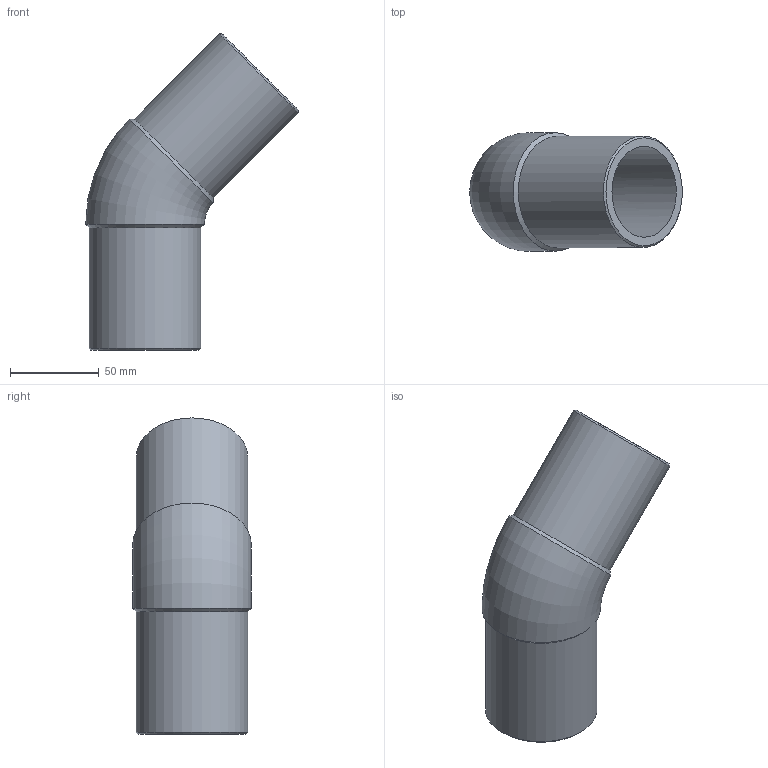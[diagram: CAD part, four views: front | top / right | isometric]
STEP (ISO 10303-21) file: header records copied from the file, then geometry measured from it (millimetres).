
FILE_DESCRIPTION(/* description */ ('Unknown'),/* implementation_level */ '2;1');
FILE_NAME(/* name */ 'G4P063C',/* time_stamp */ '2022-01-19T09:22:58+01:00',/* author */ ('Unknown'),/* organization */ ('Unknown'),/* preprocessor_version */ 'ST-DEVELOPER v18.1',/* originating_system */ 'Solid Edge',/* authorisation */ 'Unknown');
FILE_SCHEMA (('AUTOMOTIVE_DESIGN {1 0 10303 214 3 1 1}'));
Length unit declared in the file: millimetre
Products named in the file (1): G4P063C
Bounding box: 120.12 x 67 x 178.62 mm (x, y, z)
Volume: 207440.7 mm3; surface area: 68067.8 mm2
Topology: 1 solids, 1 shells, 12 faces, 30 edges, 20 vertices
Faces by surface type: cone 4, cylinder 4, plane 2, torus 2
Full cylindrical faces by diameter (mm): 51.4 x2, 63 x2
Entity records: 326 total; most frequent: CARTESIAN_POINT 60, DIRECTION 52, ORIENTED_EDGE 34, AXIS2_PLACEMENT_3D 26, EDGE_LOOP 23, FACE_BOUND 23, EDGE_CURVE 17, VERTEX_POINT 16
